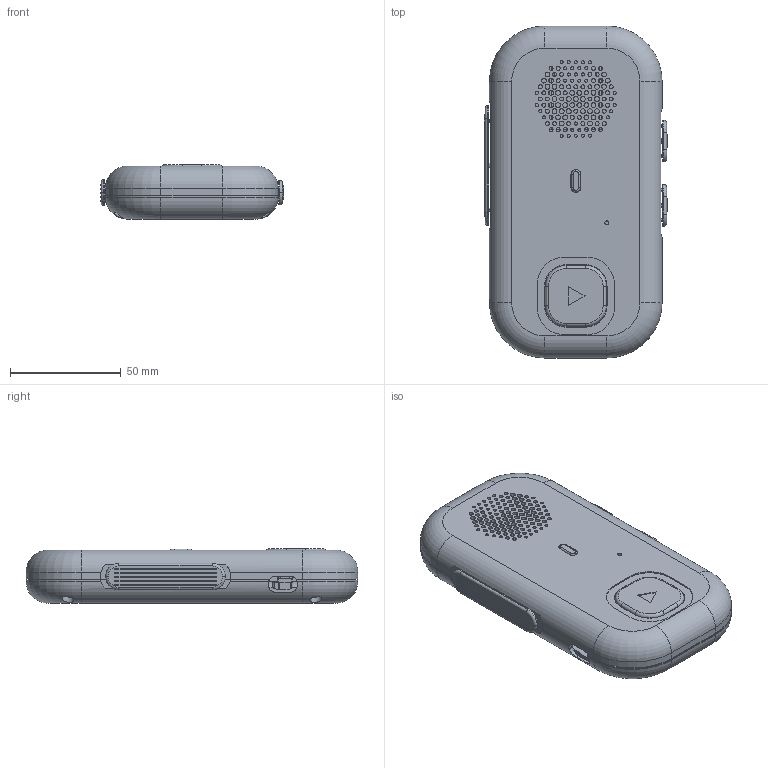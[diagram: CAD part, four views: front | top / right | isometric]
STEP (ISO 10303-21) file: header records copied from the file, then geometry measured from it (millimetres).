
FILE_DESCRIPTION(/* description */ (''),/* implementation_level */ '2;1');
FILE_NAME(/* name */ 'Walkie_Talkie_Enclosure_Fusion_v12_3_NoStack.step',/* time_stamp */ '2026-09-08T15:06:54-07:00',/* author */ (''),/* organization */ (''),/* preprocessor_version */ 'ST-DEVELOPER v20.1',/* originating_system */ 'Autodesk Translation Framework v15.8.0.0',/* authorisation */ '');
FILE_SCHEMA (('AUTOMOTIVE_DESIGN { 1 0 10303 214 3 1 1 }'));
Length unit declared in the file: millimetre
Products named in the file (9): 2026-09-08-15-04-45-721; 2026-09-08-15-04-46-164; 2026-09-08-15-05-02-380; 2026-09-08-15-05-38-058; 2026-09-08-15-05-41-092; 2026-09-08-15-05-42-107; 2026-09-08-15-05-51-453; 2026-09-08-15-05-57-566; 2026-09-08-15-06-02-599
Assembly tree (8 placements, depth 2):
  2026-09-08-15-04-45-721
    2026-09-08-15-04-46-164
    2026-09-08-15-05-02-380
    2026-09-08-15-05-38-058
    2026-09-08-15-05-41-092
    2026-09-08-15-05-42-107
    2026-09-08-15-05-51-453
    2026-09-08-15-05-57-566
    2026-09-08-15-06-02-599
Bounding box: 82.72 x 150 x 24.55 mm (x, y, z)
Volume: 65087.2 mm3; surface area: 74389.8 mm2
Topology: 8 solids, 10 shells, 2416 faces, 6834 edges, 4518 vertices
Faces by surface type: plane 1135, cylinder 893, bspline 352, torus 36
Full cylindrical faces by diameter (mm): 1.4 x32, 1.7 x4, 1.8 x49, 2.1 x4, 2.2 x42, 2.6 x2, 2.9 x8, 3 x4, 4.2 x8, 5 x1, 5.3 x1, 5.4 x1, 5.5 x1, 8 x1
Entity records: 84460 total; most frequent: CARTESIAN_POINT 21843, ORIENTED_EDGE 13668, DIRECTION 11991, EDGE_CURVE 6834, VERTEX_POINT 4518, LINE 4025, VECTOR 4025, AXIS2_PLACEMENT_3D 3983
